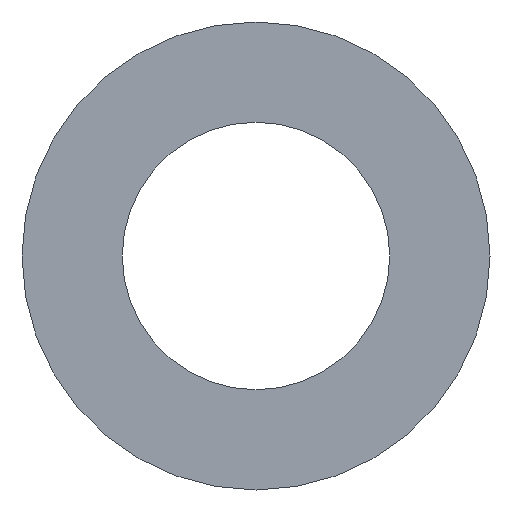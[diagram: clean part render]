
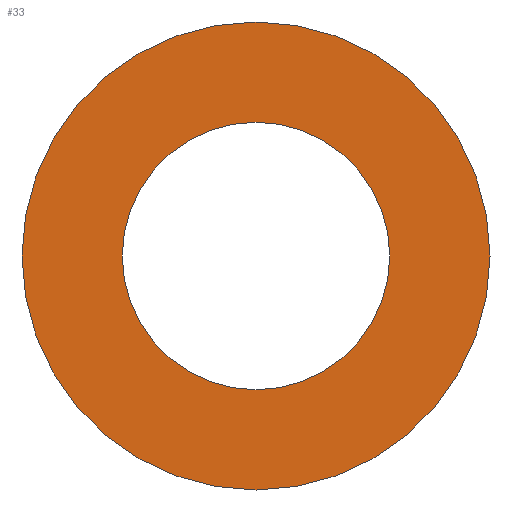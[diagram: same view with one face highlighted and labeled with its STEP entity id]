
A CAD part, left-side view. The second image highlights one B-rep face of the part: STEP entity #33.
In plain terms, the highlighted planar face has unit normal (-1, 0, 0).
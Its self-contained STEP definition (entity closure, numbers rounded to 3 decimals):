
#27=FACE_BOUND('',#45,.F.);
#29=PLANE('',#135);
#33=ADVANCED_FACE('',(#27,#39),#29,.T.);
#39=FACE_OUTER_BOUND('',#46,.F.);
#45=EDGE_LOOP('',(#59,#60));
#46=EDGE_LOOP('',(#61,#62));
#59=ORIENTED_EDGE('',*,*,#103,.T.);
#60=ORIENTED_EDGE('',*,*,#95,.T.);
#61=ORIENTED_EDGE('',*,*,#106,.F.);
#62=ORIENTED_EDGE('',*,*,#98,.F.);
#95=EDGE_CURVE('',#122,#121,#107,.T.);
#98=EDGE_CURVE('',#116,#115,#110,.T.);
#103=EDGE_CURVE('',#121,#122,#111,.T.);
#106=EDGE_CURVE('',#115,#116,#114,.T.);
#107=CIRCLE('',#125,4.);
#110=CIRCLE('',#128,7.);
#111=CIRCLE('',#129,4.);
#114=CIRCLE('',#132,7.);
#115=VERTEX_POINT('',#177);
#116=VERTEX_POINT('',#178);
#121=VERTEX_POINT('',#183);
#122=VERTEX_POINT('',#184);
#125=AXIS2_PLACEMENT_3D('',#185,#142,#143);
#128=AXIS2_PLACEMENT_3D('',#188,#148,#149);
#129=AXIS2_PLACEMENT_3D('',#193,#154,#155);
#132=AXIS2_PLACEMENT_3D('',#196,#160,#161);
#135=AXIS2_PLACEMENT_3D('',#199,#166,#167);
#142=DIRECTION('',(-1.,0.,0.));
#143=DIRECTION('',(0.,1.,0.));
#148=DIRECTION('',(-1.,0.,0.));
#149=DIRECTION('',(0.,1.,0.));
#154=DIRECTION('',(-1.,0.,0.));
#155=DIRECTION('',(0.,-1.,0.));
#160=DIRECTION('',(-1.,0.,0.));
#161=DIRECTION('',(0.,-1.,0.));
#166=DIRECTION('',(-1.,0.,0.));
#167=DIRECTION('',(0.,0.,1.));
#177=CARTESIAN_POINT('',(752.598,332.389,266.876));
#178=CARTESIAN_POINT('',(752.598,346.389,266.876));
#183=CARTESIAN_POINT('',(752.598,335.389,266.876));
#184=CARTESIAN_POINT('',(752.598,343.389,266.876));
#185=CARTESIAN_POINT('',(752.598,339.389,266.876));
#188=CARTESIAN_POINT('',(752.598,339.389,266.876));
#193=CARTESIAN_POINT('',(752.598,339.389,266.876));
#196=CARTESIAN_POINT('',(752.598,339.389,266.876));
#199=CARTESIAN_POINT('',(752.598,332.249,259.736));
